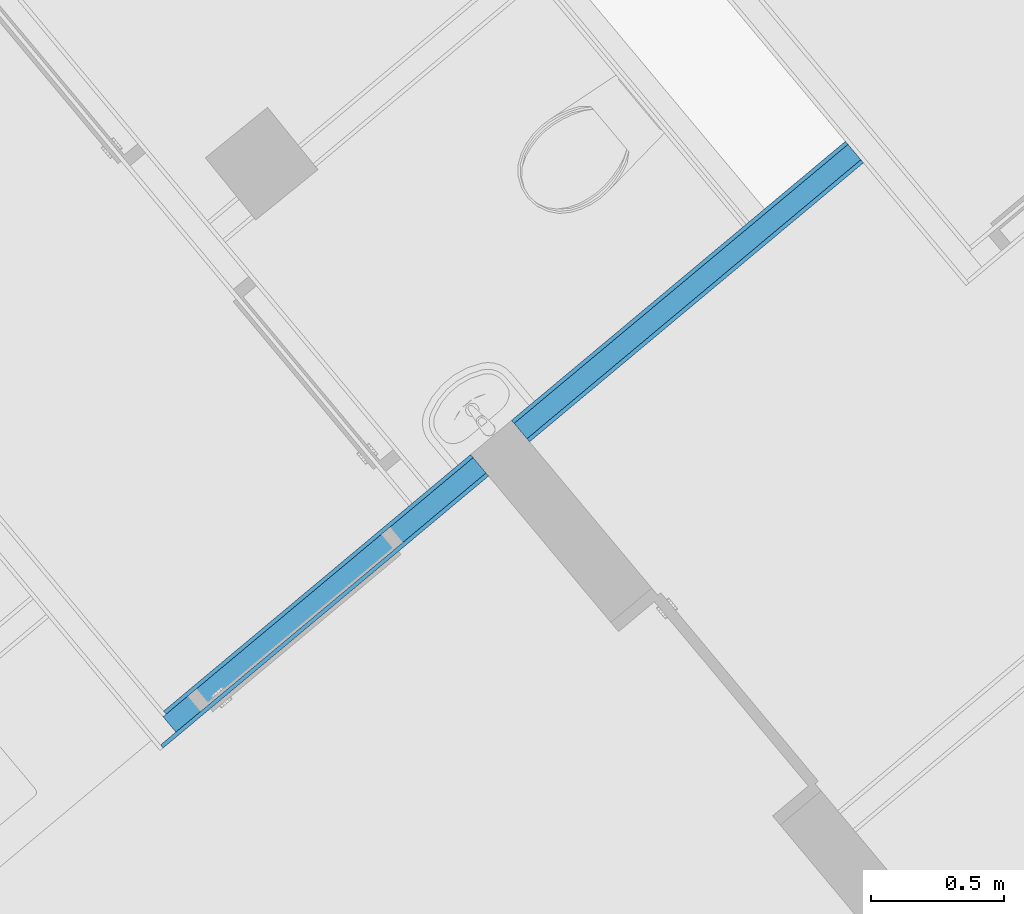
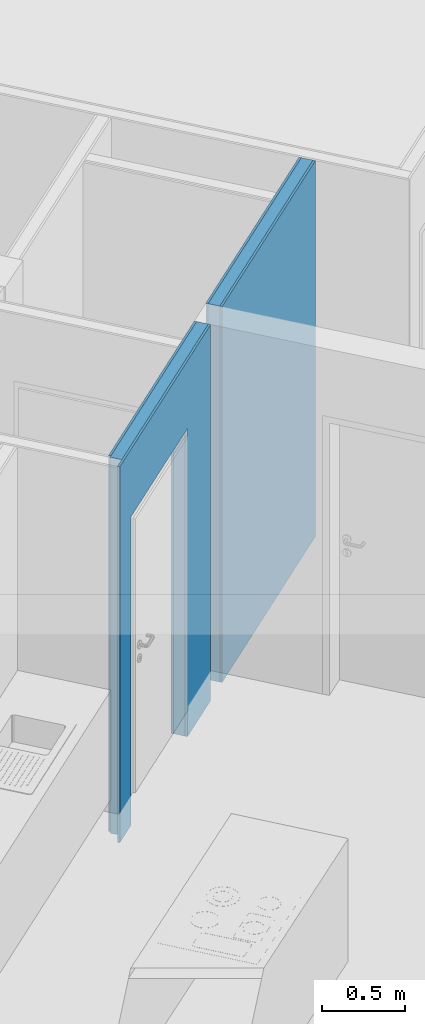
# One storey, part 12 of 61: 3 building element parts, 1 opening, 1 element without a shape of its own.
"""IFC4 building model written with IfcOpenShell, lengths in metres."""

from ifc_helpers import new_model, entity, si_unit, converted_unit, derived_unit, direction, frame, origin_with_axes, place, context, subcontext, project, spatial, polygons, material, type_object, element, aggregate, save


model = new_model("IFC4")

# Units and contexts
model_context = context("Model", 3, precision=1e-05, world=origin_with_axes(), true_north=direction((0.0, 1.0)))
body_context = subcontext(model_context, "Body", "Model", "MODEL_VIEW")
ifc_project = project(units=[si_unit("LENGTHUNIT", "METRE"), si_unit("AREAUNIT", "SQUARE_METRE"), si_unit("VOLUMEUNIT", "CUBIC_METRE"), converted_unit("PLANEANGLEUNIT", "DEGREE", entity("IfcPlaneAngleMeasure", 0.0174532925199), si_unit("PLANEANGLEUNIT", "RADIAN"), dimensions=[0, 0, 0, 0, 0, 0, 0]), converted_unit("TIMEUNIT", "Year", entity("IfcTimeMeasure", 31556926.0), si_unit("TIMEUNIT", "SECOND"), dimensions=[0, 0, 1, 0, 0, 0, 0]), si_unit("MASSUNIT", "GRAM", prefix="KILO"), si_unit("THERMODYNAMICTEMPERATUREUNIT", "DEGREE_CELSIUS"), si_unit("LUMINOUSINTENSITYUNIT", "LUMEN"), si_unit("ENERGYUNIT", "JOULE", prefix="MEGA"), derived_unit("THERMALCONDUCTANCEUNIT", [(si_unit("POWERUNIT", "WATT"), 1), (si_unit("LENGTHUNIT", "METRE"), -1), (si_unit("THERMODYNAMICTEMPERATUREUNIT", "KELVIN"), -1)]), derived_unit("SPECIFICHEATCAPACITYUNIT", [(si_unit("ENERGYUNIT", "JOULE"), 1), (si_unit("MASSUNIT", "GRAM", prefix="KILO"), -1), (si_unit("THERMODYNAMICTEMPERATUREUNIT", "KELVIN"), -1)]), derived_unit("MASSDENSITYUNIT", [(si_unit("MASSUNIT", "GRAM", prefix="KILO"), 1), (si_unit("VOLUMEUNIT", "CUBIC_METRE"), -1)])], contexts=[model_context])

# Site, building, storey
site_placement = place(None, frame((-0.00153261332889, -0.00661245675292, 0.0), z_axis=(0.0, 0.0, 1.0), x_axis=(1.0, 0.0, 0.0)))
site = spatial("IfcSite", under=ifc_project, at=site_placement, Name="Gelände", CompositionType="ELEMENT")
building_placement = place(site_placement, origin_with_axes())
building = spatial("IfcBuilding", under=site, at=building_placement, Name="Gebäude", CompositionType="ELEMENT")
storey_placement = place(building_placement, frame((0.0, 0.0, 5.7), z_axis=(0.0, 0.0, 1.0), x_axis=(1.0, 0.0, 0.0)))
storey = spatial("IfcBuildingStorey", under=building, at=storey_placement, Name="DG1", CompositionType="ELEMENT", Elevation=5.7)

# Wall, opening, building element parts
wall_type = type_object("IfcWallType", Name="IW LB 01 Leichtbautrennwand einfach 10,5 cm 105", PredefinedType="NOTDEFINED")
wall_placement = place(storey_placement, frame((-2.08312731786, 16.7658353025, 0.0), z_axis=(0.0, 0.0, 1.0), x_axis=(0.767365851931, 0.641209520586, 0.0)))
wall = element("IfcWall", 1, at=wall_placement, inside=storey, type_object=wall_type, Name="Wand-012", PredefinedType="NOTDEFINED")
opening_placement = place(wall_placement, frame((0.704535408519, 0.0, 0.22), z_axis=(0.0, 0.0, 1.0), x_axis=(1.0, 0.0, 0.0)))
element("IfcOpeningElement", 2, at=opening_placement, cuts=wall, Name="Tür-017", context=body_context, identifier="Reference", shape_type="Tessellation", body=[
    polygons([(0.495, 1.6911768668, 2.045), (0.495, 1.6911768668, -0.22), (-0.495, 1.6911768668, -0.22), (-0.495, 1.6911768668, 2.045), (0.495, -1.7961768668, 2.045), (0.495, -1.7961768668, -0.22), (-0.495, -1.7961768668, -0.22), (-0.495, -1.7961768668, 2.045)], [[[1, 2, 3, 4]], [[5, 6, 2, 1]], [[6, 7, 3, 2]], [[7, 8, 4, 3]], [[8, 5, 1, 4]], [[7, 6, 5, 8]]], closed=True),
])
ifc_material_1 = material(Name="Gipskarton")
building_element_part_1_placement = place(wall_placement, origin_with_axes())
building_element_part_1 = element("IfcBuildingElementPart", 3, at=building_element_part_1_placement, material=ifc_material_1, Name="Gipskarton", PredefinedType="NOTDEFINED", context=body_context, shape_type="Tessellation", body=[
    polygons([(0.209535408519, -0.015, 0.22), (0.209535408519, -0.015, 2.265), (1.19953540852, -0.015, 2.265), (1.19953540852, -0.015, 0.22), (1.19953540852, -0.015, 0.0), (1.60433833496, -0.015, 0.0), (1.60433833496, -0.015, 2.76), (0.105, -0.015, 2.76), (0.105, -0.015, 0.0), (0.209535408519, -0.015, 0.0), (0.209535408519, 2.04706811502e-08, 0.22), (0.209535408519, -1.05558584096e-07, 2.265), (1.19953540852, -1.0555858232e-07, 2.265), (1.19953540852, -1.0555858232e-07, 0.22), (1.19953540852, -1.05558584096e-07, 0.0), (1.60433833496, 0.0, 0.0), (1.60433833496, 0.0, 2.76), (0.105, 0.0, 2.76), (0.105, 0.0, 0.0), (0.209535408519, 2.04706811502e-08, 0.0)], [[[1, 2, 3, 4, 5, 6, 7, 8, 9, 10]], [[2, 1, 11, 12]], [[3, 2, 12, 13]], [[4, 3, 13, 14]], [[4, 14, 15, 5]], [[15, 16, 6, 5]], [[7, 6, 16, 17]], [[17, 18, 8, 7]], [[8, 18, 19, 9]], [[10, 9, 19, 20]], [[11, 1, 10, 20]], [[12, 11, 20, 19, 18, 17, 16, 15, 14, 13]]], closed=True),
    polygons([(3.43502357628, 0.0, 2.76), (1.80433833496, 0.0, 2.76), (1.80433833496, -0.015, 2.76), (3.43502357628, -0.015, 2.76), (3.43502357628, 0.0, 0.0), (1.80433833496, 0.0, 0.0), (1.80433833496, -0.015, 0.0), (3.43502357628, -0.015, 0.0)], [[[1, 2, 3, 4]], [[5, 6, 2, 1]], [[3, 2, 6, 7]], [[4, 3, 7, 8]], [[4, 8, 5, 1]], [[8, 7, 6, 5]]], closed=True),
])
ifc_material_2 = material(Name="Mineralwolle weich")
building_element_part_2_placement = place(wall_placement, origin_with_axes())
building_element_part_2 = element("IfcBuildingElementPart", 4, at=building_element_part_2_placement, material=ifc_material_2, Name="Mineralwolle weich", PredefinedType="NOTDEFINED", context=body_context, shape_type="Tessellation", body=[
    polygons([(0.209535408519, -0.09, 0.22), (0.209535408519, -0.09, 2.265), (1.19953540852, -0.09, 2.265), (1.19953540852, -0.09, 0.22), (1.19953540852, -0.09, 0.0), (1.60433833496, -0.09, 0.0), (1.60433833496, -0.09, 2.76), (0.089999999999, -0.09, 2.76), (0.089999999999, -0.09, 0.0), (0.209535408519, -0.09, 0.0), (0.209535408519, -0.015, 0.22), (0.209535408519, -0.015, 2.265), (1.19953540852, -0.015, 2.265), (1.19953540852, -0.015, 0.22), (1.19953540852, -0.015, 0.0), (1.60433833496, -0.015, 0.0), (1.60433833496, -0.015, 2.76), (0.0899999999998, -0.015, 2.76), (0.0899999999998, -0.015, 0.0), (0.209535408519, -0.015, 0.0)], [[[1, 2, 3, 4, 5, 6, 7, 8, 9, 10]], [[2, 1, 11, 12]], [[3, 2, 12, 13]], [[4, 3, 13, 14]], [[4, 14, 15, 5]], [[15, 16, 6, 5]], [[7, 6, 16, 17]], [[17, 18, 8, 7]], [[8, 18, 19, 9]], [[10, 9, 19, 20]], [[11, 1, 10, 20]], [[12, 11, 20, 19, 18, 17, 16, 15, 14, 13]]], closed=True),
    polygons([(3.43502357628, -0.015, 2.76), (1.80433833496, -0.015, 2.76), (1.80433833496, -0.09, 2.76), (3.43502357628, -0.09, 2.76), (3.43502357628, -0.015, 0.0), (1.80433833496, -0.015, 0.0), (1.80433833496, -0.09, 0.0), (3.43502357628, -0.09, 0.0)], [[[1, 2, 3, 4]], [[5, 6, 2, 1]], [[3, 2, 6, 7]], [[4, 3, 7, 8]], [[4, 8, 5, 1]], [[8, 7, 6, 5]]], closed=True),
])
building_element_part_3_placement = place(wall_placement, origin_with_axes())
building_element_part_3 = element("IfcBuildingElementPart", 5, at=building_element_part_3_placement, material=ifc_material_1, Name="Gipskarton", PredefinedType="NOTDEFINED", context=body_context, shape_type="Tessellation", body=[
    polygons([(0.209535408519, -0.105, 0.22), (0.209535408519, -0.105, 2.265), (1.19953540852, -0.105, 2.265), (1.19953540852, -0.105, 0.22), (1.19953540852, -0.105, 0.0), (1.60433833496, -0.105, 0.0), (1.60433833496, -0.105, 2.76), (0.0149999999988, -0.105, 2.76), (0.0149999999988, -0.105, 0.0), (0.209535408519, -0.105, 0.0), (0.209535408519, -0.09, 0.22), (0.209535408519, -0.09, 2.265), (1.19953540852, -0.09, 2.265), (1.19953540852, -0.09, 0.22), (1.19953540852, -0.09, 0.0), (1.60433833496, -0.09, 0.0), (1.60433833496, -0.09, 2.76), (0.014999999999, -0.09, 2.76), (0.014999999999, -0.09, 0.0), (0.209535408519, -0.09, 0.0)], [[[1, 2, 3, 4, 5, 6, 7, 8, 9, 10]], [[2, 1, 11, 12]], [[3, 2, 12, 13]], [[4, 3, 13, 14]], [[4, 14, 15, 5]], [[15, 16, 6, 5]], [[7, 6, 16, 17]], [[17, 18, 8, 7]], [[8, 18, 19, 9]], [[10, 9, 19, 20]], [[11, 1, 10, 20]], [[12, 11, 20, 19, 18, 17, 16, 15, 14, 13]]], closed=True),
    polygons([(3.43502357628, -0.09, 2.76), (1.80433833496, -0.09, 2.76), (1.80433833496, -0.105, 2.76), (3.43502357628, -0.105, 2.76), (3.43502357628, -0.09, 0.0), (1.80433833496, -0.09, 0.0), (1.80433833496, -0.105, 0.0), (3.43502357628, -0.105, 0.0)], [[[1, 2, 3, 4]], [[5, 6, 2, 1]], [[3, 2, 6, 7]], [[4, 3, 7, 8]], [[4, 8, 5, 1]], [[8, 7, 6, 5]]], closed=True),
])
aggregate(wall, [building_element_part_1, building_element_part_2, building_element_part_3])

save(model, "model.ifc")
